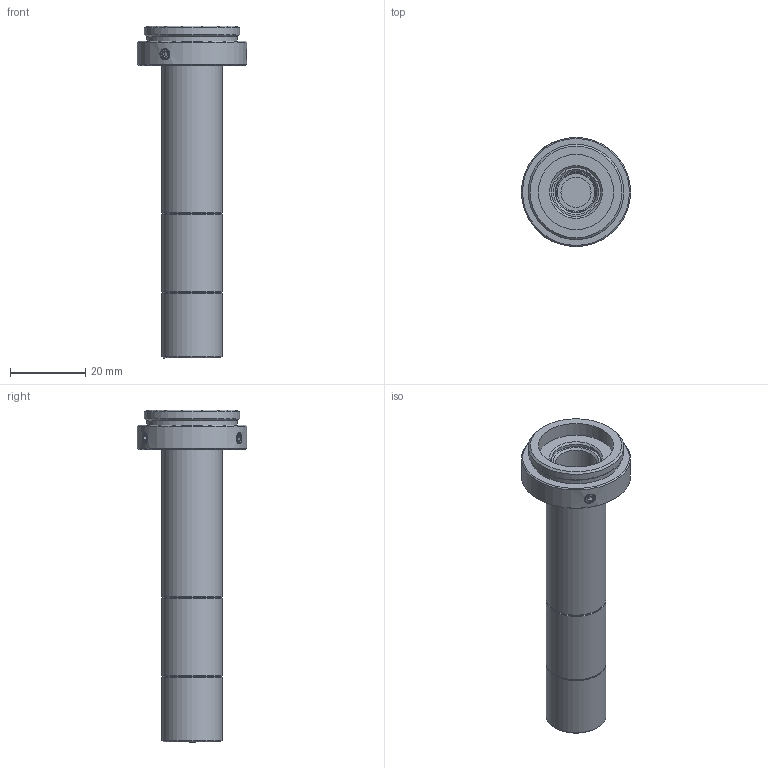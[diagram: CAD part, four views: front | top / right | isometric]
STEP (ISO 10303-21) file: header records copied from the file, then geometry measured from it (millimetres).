
FILE_DESCRIPTION(('STEP AP214'),'1');
FILE_NAME('RTK-6-65.stp','2026-03-16T07:02:07',(' '),(' '),'Spatial InterOp 3D',' ',' ');
FILE_SCHEMA(('AUTOMOTIVE_DESIGN { 1 0 10303 214 1 1 1 1 }'));
Length unit declared in the file: metre
Products named in the file (2): RTK-6-65; Component1
Assembly tree (1 placements, depth 2):
  RTK-6-65
    Component1
Bounding box: 29 x 29 x 88.21 mm (x, y, z)
Volume: 12374.7 mm3; surface area: 9840.6 mm2
Topology: 1 solids, 1 shells, 134 faces, 303 edges, 198 vertices
Faces by surface type: plane 53, cone 50, cylinder 26, bspline 3, sphere 2
Full cylindrical faces by diameter (mm): 8 x1, 10 x2, 11 x1, 12 x3, 13 x2, 13.4 x2, 13.5 x2, 13.7 x1, 14.2 x2, 14.7 x1, 16 x3, 20 x1, 24.12 x1, 25.32 x1, 29 x1
Entity records: 4798 total; most frequent: CARTESIAN_POINT 1014, DIRECTION 560, ORIENTED_EDGE 454, AXIS2_PLACEMENT_3D 236, EDGE_CURVE 227, EDGE_LOOP 216, VERTEX_POINT 179, FACE_OUTER_BOUND 160
